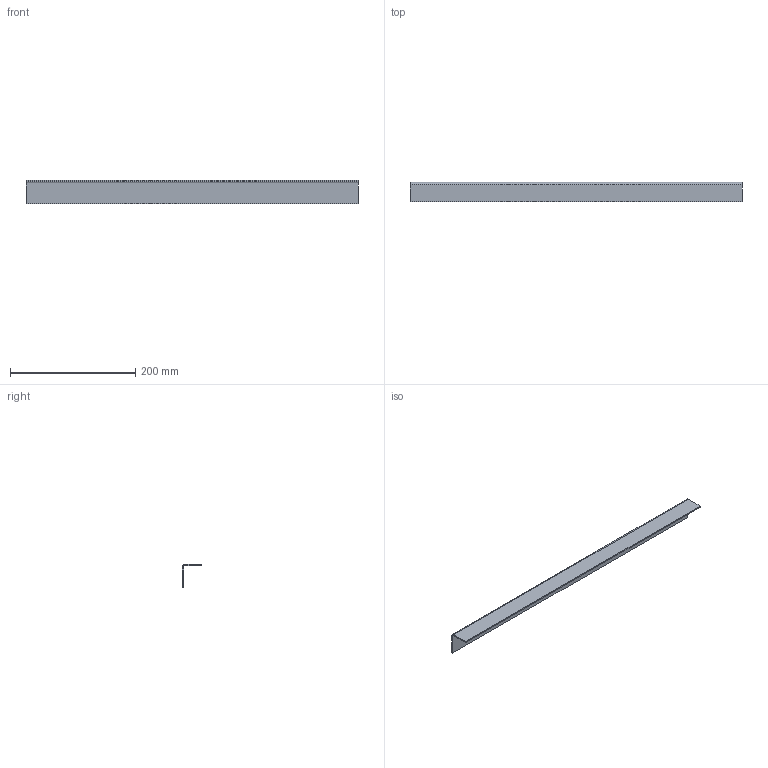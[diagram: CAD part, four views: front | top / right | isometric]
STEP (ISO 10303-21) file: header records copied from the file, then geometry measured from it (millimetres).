
FILE_DESCRIPTION (( 'STEP AP203' ), '1' );
FILE_NAME ('ORW-72.24.10.009 赶鎀鍧.STEP', '2025-12-17T13:00:50', ( '燴僽樥' ), ( '' ), 'SwSTEP 2.0', 'SolidWorks 2025', '' );
FILE_SCHEMA (( 'CONFIG_CONTROL_DESIGN' ));
Length unit declared in the file: millimetre
Products named in the file (1): ORW-72.24.10.009 Уголок
Bounding box: 531 x 31 x 37 mm (x, y, z)
Volume: 68724.6 mm3; surface area: 71107.4 mm2
Topology: 1 solids, 1 shells, 14 faces, 28 edges, 16 vertices
Faces by surface type: plane 12, cylinder 2
Entity records: 429 total; most frequent: DIRECTION 62, CARTESIAN_POINT 59, ORIENTED_EDGE 56, EDGE_CURVE 28, LINE 24, VECTOR 24, AXIS2_PLACEMENT_3D 19, VERTEX_POINT 16
